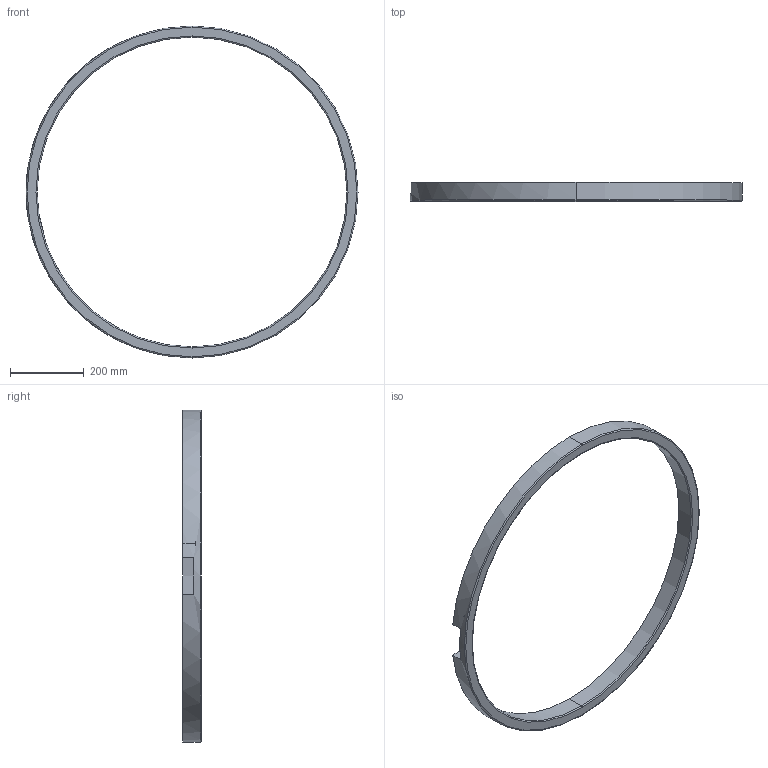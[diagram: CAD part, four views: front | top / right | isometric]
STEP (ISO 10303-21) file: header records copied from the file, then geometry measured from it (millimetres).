
FILE_DESCRIPTION (( 'STEP AP214' ), '1' );
FILE_NAME ('Êîëüöî ÌÄÔ.STEP', '2019-09-06T05:46:50', ( '' ), ( '' ), 'SwSTEP 2.0', 'SolidWorks 2016', '' );
FILE_SCHEMA (( 'AUTOMOTIVE_DESIGN' ));
Length unit declared in the file: millimetre
Products named in the file (1): Êîëüöî ÌÄÔ
Bounding box: 900 x 50 x 900 mm (x, y, z)
Volume: 3961119 mm3; surface area: 428398.9 mm2
Topology: 1 solids, 1 shells, 42 faces, 106 edges, 59 vertices
Faces by surface type: cylinder 17, cone 12, plane 9, torus 4
Entity records: 1215 total; most frequent: DIRECTION 227, CARTESIAN_POINT 196, ORIENTED_EDGE 188, EDGE_CURVE 94, AXIS2_PLACEMENT_3D 90, VERTEX_POINT 59, EDGE_LOOP 49, VECTOR 47
